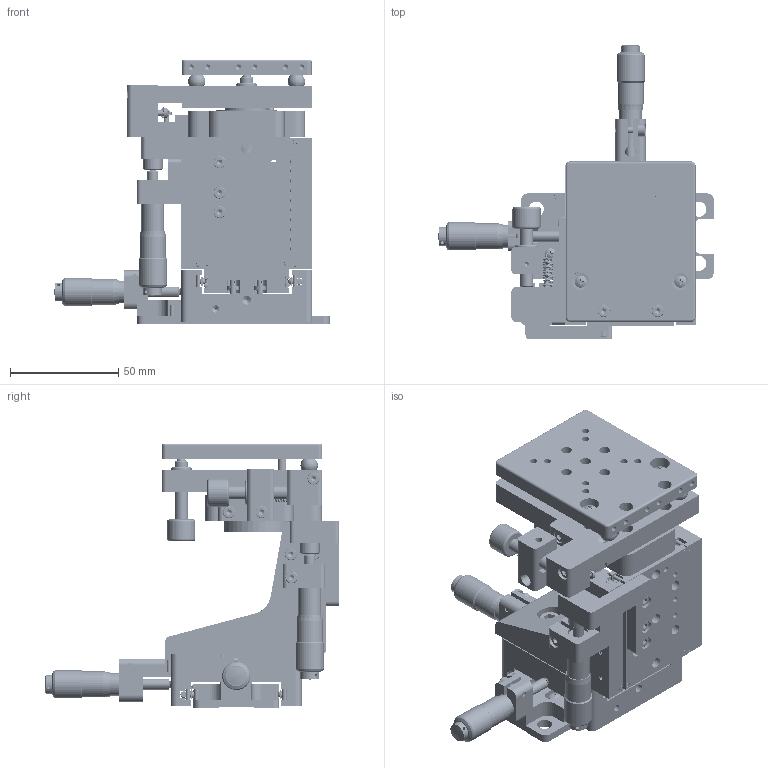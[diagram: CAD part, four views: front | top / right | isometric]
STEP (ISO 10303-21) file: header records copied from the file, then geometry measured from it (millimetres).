
FILE_DESCRIPTION (( 'STEP AP203' ), '1' );
FILE_NAME ('7SWM0502五轴位移台(左手型).STEP', '2021-11-26T09:03:02', ( '' ), ( '' ), 'SwSTEP 2.0', 'SolidWorks 2018', '' );
FILE_SCHEMA (( 'CONFIG_CONTROL_DESIGN' ));
Products named in the file (1): 7SWM0502五轴位移台(左手型)
Bounding box: 127.13 x 136.08 x 122.23 mm (x, y, z)
Volume: 333170.4 mm3; surface area: 184722.1 mm2
Topology: 203 solids, 203 shells, 3375 faces, 8203 edges, 5112 vertices
Faces by surface type: plane 1244, cylinder 1226, cone 619, sphere 142, torus 108, bspline 36
Entity records: 145695 total; most frequent: CARTESIAN_POINT 65810, DIRECTION 17954, ORIENTED_EDGE 15560, EDGE_CURVE 7780, AXIS2_PLACEMENT_3D 7143, VERTEX_POINT 4965, EDGE_LOOP 3995, CIRCLE 3803
